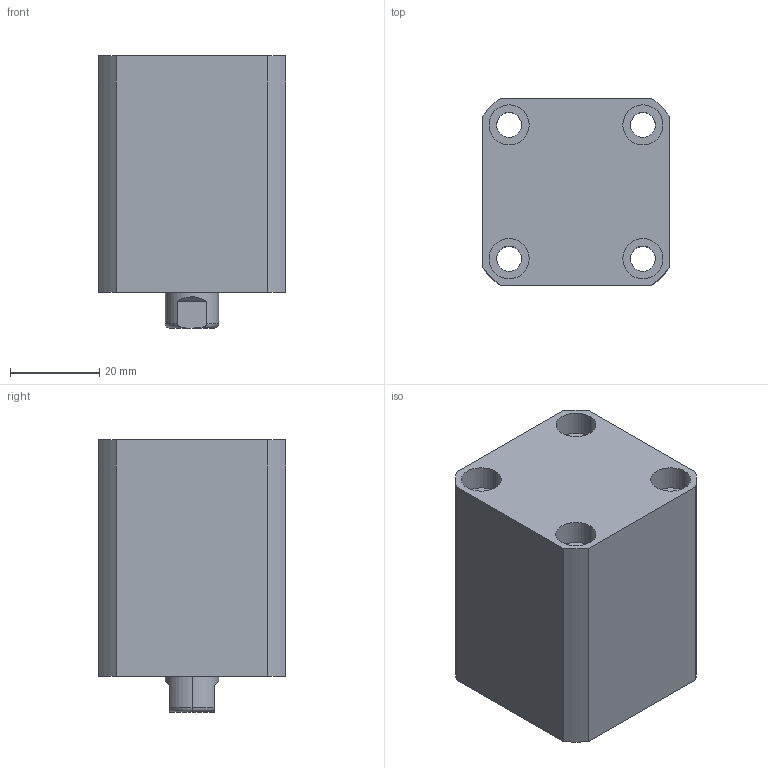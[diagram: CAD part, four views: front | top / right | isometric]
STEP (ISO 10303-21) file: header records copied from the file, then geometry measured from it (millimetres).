
FILE_DESCRIPTION (( 'STEP AP214' ), '1' );
FILE_NAME ('chtb-sd20x10n_asm.STEP', '2018-04-26T11:26:31', ( 'Windows' ), ( 'Microsoft' ), 'SwSTEP 2.0', 'SolidWorks 2015', '' );
FILE_SCHEMA (( 'AUTOMOTIVE_DESIGN' ));
Length unit declared in the file: millimetre
Products named in the file (4): QG; CHTB-SD20X10NHSG; CHTB-SD20X10NBT; chtb-sd20x10n_asm
Assembly tree (3 placements, depth 2):
  chtb-sd20x10n_asm
    CHTB-SD20X10NBT
    CHTB-SD20X10NHSG
    QG
Bounding box: 42 x 42 x 61 mm (x, y, z)
Volume: 80223.1 mm3; surface area: 27954.9 mm2
Topology: 3 solids, 3 shells, 192 faces, 499 edges, 330 vertices
Faces by surface type: cylinder 102, plane 36, torus 25, bspline 19, cone 10
Entity records: 10524 total; most frequent: CARTESIAN_POINT 5851, ORIENTED_EDGE 986, DIRECTION 903, EDGE_CURVE 493, AXIS2_PLACEMENT_3D 385, VERTEX_POINT 330, EDGE_LOOP 229, CIRCLE 206
